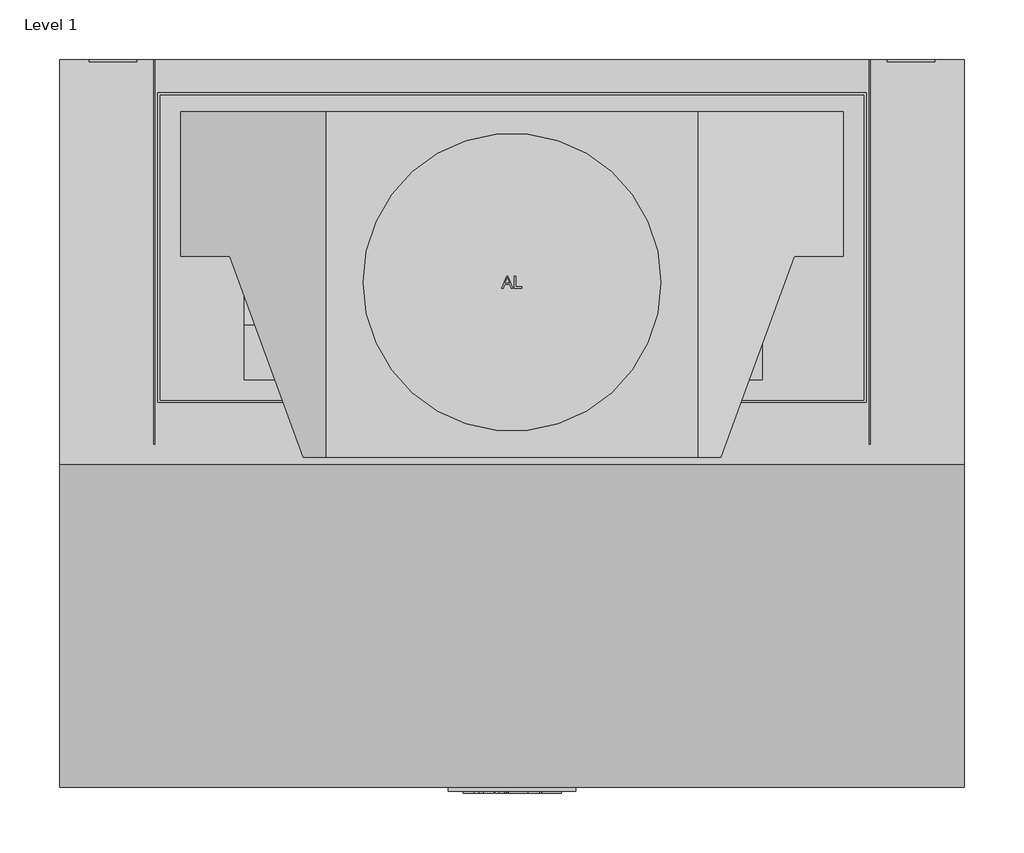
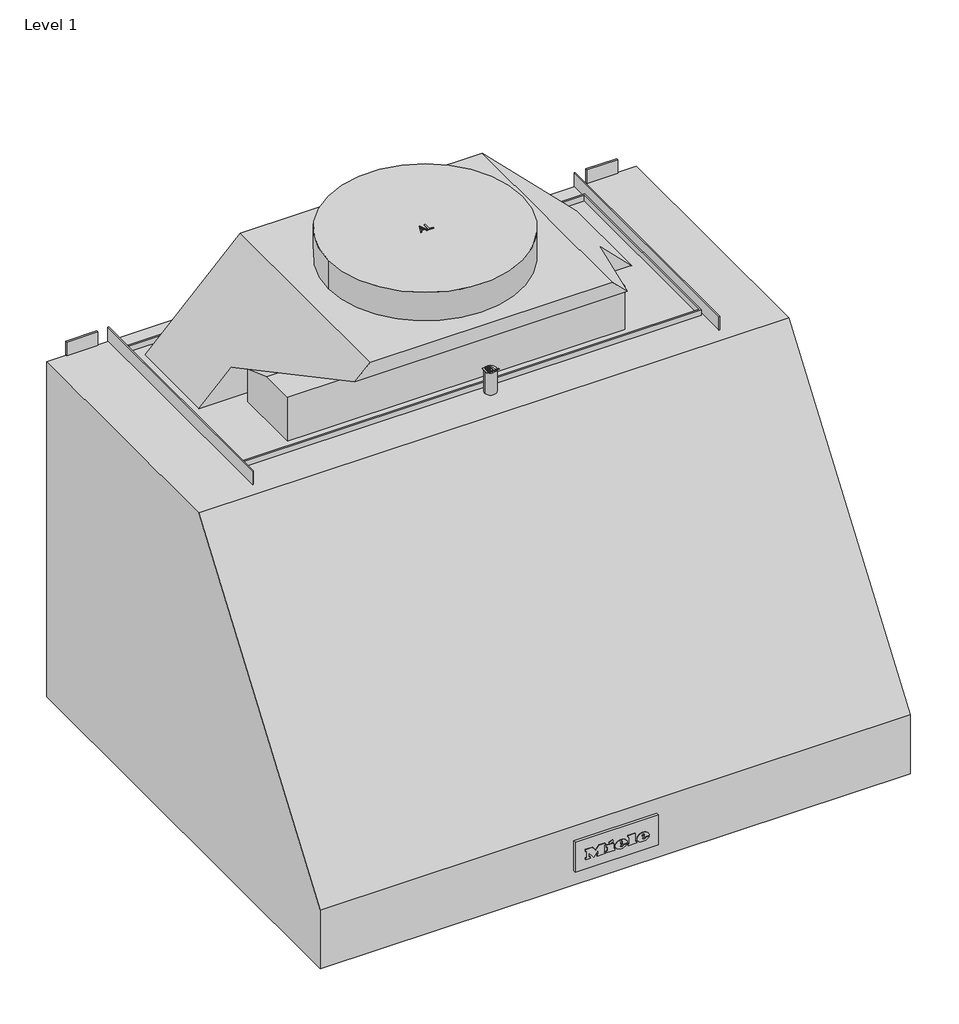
# One storey: 1 proxy.
"""IFC4 building model written with IfcOpenShell, lengths in millimetres."""

from ifc_helpers import new_model, si_unit, origin, place, context, project, spatial, transform, mapped, element, save
from components import specialty_equipment_fceb2e25

model = new_model("IFC4")

# Units and contexts
model_context = context("Model", 3, world=origin())
ifc_project = project(units=[si_unit("LENGTHUNIT", "METRE", prefix="MILLI")], contexts=[model_context])

# Site, building, storey
site = spatial("IfcSite", under=ifc_project)
building = spatial("IfcBuilding", under=site)
storey = spatial("IfcBuildingStorey", under=building, Name="Level 1", Elevation=0.0)

# Proxy
placement = place(None, origin())
specialty_equipment_shape = specialty_equipment_fceb2e25(model_context)
element("IfcBuildingElementProxy", 1, Name="11898130_USA_DAR1220-3_EDST : 28122051_USA_11898130_DAR1220-3_EDST", ObjectType="11898130_USA_DAR1220-3_EDST : 28122051_USA_11898130_DAR1220-3_EDST", at=placement, inside=storey, context=model_context, shape_type="MappedRepresentation", body=[
    mapped(specialty_equipment_shape, transform((0.0, 0.0, 0.0), x_axis=(1.0, 0.0, 0.0), y_axis=(0.0, 1.0, 0.0), z_axis=(0.0, 0.0, 1.0))),
])

save(model, "model.ifc")
